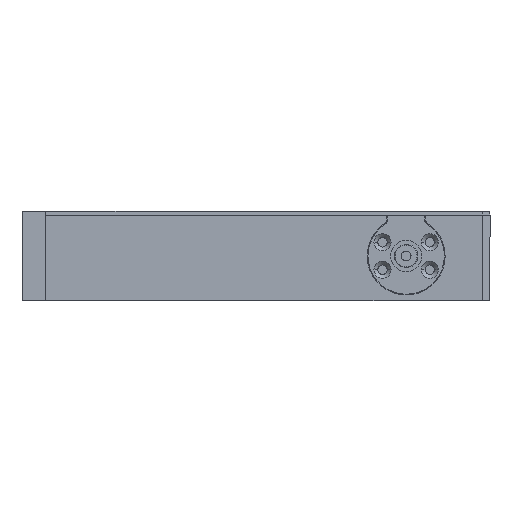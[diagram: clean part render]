
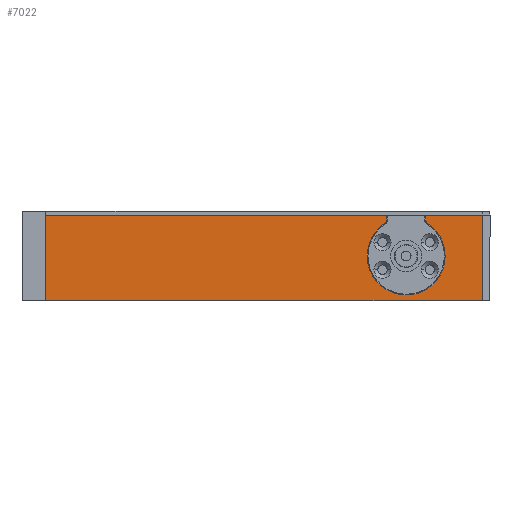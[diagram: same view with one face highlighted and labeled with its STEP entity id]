
A CAD part, front view. The second image highlights one B-rep face of the part: STEP entity #7022.
In plain terms, the highlighted planar face has unit normal (0, -1, 0).
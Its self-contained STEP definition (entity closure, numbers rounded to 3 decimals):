
#592 = EDGE_CURVE ( 'NONE', #158724, #89011, #77764, .T. ) ;
#776 = FACE_OUTER_BOUND ( 'NONE', #34808, .T. ) ;
#3015 = EDGE_CURVE ( 'NONE', #146406, #12506, #97725, .T. ) ;
#3884 = VECTOR ( 'NONE', #41280, 1000. ) ;
#4421 = LINE ( 'NONE', #44938, #34859 ) ;
#6482 = AXIS2_PLACEMENT_3D ( 'NONE', #114024, #167968, #46750 ) ;
#7022 = ADVANCED_FACE ( 'NONE', ( #776 ), #66064, .F. ) ;
#10365 = EDGE_CURVE ( 'NONE', #17461, #11647, #55764, .T. ) ;
#11350 = ORIENTED_EDGE ( 'NONE', *, *, #43931, .T. ) ;
#11647 = VERTEX_POINT ( 'NONE', #30375 ) ;
#12506 = VERTEX_POINT ( 'NONE', #59005 ) ;
#13274 = AXIS2_PLACEMENT_3D ( 'NONE', #105619, #36719, #172045 ) ;
#14422 = EDGE_CURVE ( 'NONE', #12506, #155410, #4421, .T. ) ;
#14834 = LINE ( 'NONE', #15734, #3884 ) ;
#15734 = CARTESIAN_POINT ( 'NONE',  ( 60., -110., -1.5 ) ) ;
#16097 = CARTESIAN_POINT ( 'NONE',  ( 43.5, -110., 20.5 ) ) ;
#17342 = ORIENTED_EDGE ( 'NONE', *, *, #592, .F. ) ;
#17461 = VERTEX_POINT ( 'NONE', #30362 ) ;
#21244 = CARTESIAN_POINT ( 'NONE',  ( 38.5, -110., 10. ) ) ;
#24385 = CARTESIAN_POINT ( 'NONE',  ( -54., -110., 20.5 ) ) ;
#27313 = CARTESIAN_POINT ( 'NONE',  ( 43.955, -110., 18.381 ) ) ;
#28847 = VECTOR ( 'NONE', #66795, 1000. ) ;
#30362 = CARTESIAN_POINT ( 'NONE',  ( 43.5, -110., 19.22 ) ) ;
#30375 = CARTESIAN_POINT ( 'NONE',  ( 43.5, -110., 20.5 ) ) ;
#30578 = CARTESIAN_POINT ( 'NONE',  ( -60., -110., 20.5 ) ) ;
#34808 = EDGE_LOOP ( 'NONE', ( #119040, #160929, #17342, #150369, #11350, #89950, #68805, #96111, #149144, #118049, #110901 ) ) ;
#34859 = VECTOR ( 'NONE', #152863, 1000. ) ;
#35694 = CARTESIAN_POINT ( 'NONE',  ( 58., -110., -1.5 ) ) ;
#36719 = DIRECTION ( 'NONE',  ( 0., -1., 0. ) ) ;
#37937 = CARTESIAN_POINT ( 'NONE',  ( 33.5, -110., 19.22 ) ) ;
#38871 = VECTOR ( 'NONE', #108376, 1000. ) ;
#41280 = DIRECTION ( 'NONE',  ( -1., 0., 0. ) ) ;
#42519 = DIRECTION ( 'NONE',  ( 0., 0., 1. ) ) ;
#42970 = CARTESIAN_POINT ( 'NONE',  ( 33.045, -110., 18.381 ) ) ;
#43931 = EDGE_CURVE ( 'NONE', #102168, #155410, #54359, .T. ) ;
#44910 = EDGE_CURVE ( 'NONE', #166094, #174392, #14834, .T. ) ;
#44938 = CARTESIAN_POINT ( 'NONE',  ( 33.5, -110., 20.5 ) ) ;
#46750 = DIRECTION ( 'NONE',  ( 0., 0., -1. ) ) ;
#51681 = EDGE_CURVE ( 'NONE', #166094, #95658, #80054, .T. ) ;
#54359 = CIRCLE ( 'NONE', #99687, 1. ) ;
#54516 = CARTESIAN_POINT ( 'NONE',  ( -54., -110., 21.5 ) ) ;
#54815 = CARTESIAN_POINT ( 'NONE',  ( -54., -110., -1.5 ) ) ;
#55764 = LINE ( 'NONE', #16097, #154599 ) ;
#56515 = CARTESIAN_POINT ( 'NONE',  ( -54., -110., 21.5 ) ) ;
#58356 = CIRCLE ( 'NONE', #13274, 1. ) ;
#59005 = CARTESIAN_POINT ( 'NONE',  ( 33.5, -110., 20.5 ) ) ;
#62832 = AXIS2_PLACEMENT_3D ( 'NONE', #54516, #122657, #108555 ) ;
#66064 = PLANE ( 'NONE',  #62832 ) ;
#66795 = DIRECTION ( 'NONE',  ( 0., 0., 1. ) ) ;
#68805 = ORIENTED_EDGE ( 'NONE', *, *, #3015, .F. ) ;
#77764 = CIRCLE ( 'NONE', #94318, 10. ) ;
#80054 = LINE ( 'NONE', #163214, #28847 ) ;
#83012 = DIRECTION ( 'NONE',  ( 0., -1., 0. ) ) ;
#84795 = CARTESIAN_POINT ( 'NONE',  ( 32.5, -110., 19.22 ) ) ;
#89011 = VERTEX_POINT ( 'NONE', #27313 ) ;
#89950 = ORIENTED_EDGE ( 'NONE', *, *, #14422, .F. ) ;
#93756 = VECTOR ( 'NONE', #110566, 1000. ) ;
#94318 = AXIS2_PLACEMENT_3D ( 'NONE', #21244, #103435, #129037 ) ;
#95658 = VERTEX_POINT ( 'NONE', #132365 ) ;
#96111 = ORIENTED_EDGE ( 'NONE', *, *, #173087, .T. ) ;
#97725 = LINE ( 'NONE', #135730, #38871 ) ;
#99687 = AXIS2_PLACEMENT_3D ( 'NONE', #84795, #83012, #109609 ) ;
#102168 = VERTEX_POINT ( 'NONE', #42970 ) ;
#103435 = DIRECTION ( 'NONE',  ( 0., -1., 0. ) ) ;
#105039 = EDGE_CURVE ( 'NONE', #17461, #89011, #58356, .T. ) ;
#105619 = CARTESIAN_POINT ( 'NONE',  ( 44.5, -110., 19.22 ) ) ;
#108376 = DIRECTION ( 'NONE',  ( 1., 0., 0. ) ) ;
#108555 = DIRECTION ( 'NONE',  ( 0., 0., 1. ) ) ;
#109609 = DIRECTION ( 'NONE',  ( 0., 0., 1. ) ) ;
#110566 = DIRECTION ( 'NONE',  ( 0., 0., -1. ) ) ;
#110901 = ORIENTED_EDGE ( 'NONE', *, *, #142364, .F. ) ;
#114024 = CARTESIAN_POINT ( 'NONE',  ( 38.5, -110., 10. ) ) ;
#118049 = ORIENTED_EDGE ( 'NONE', *, *, #51681, .T. ) ;
#119040 = ORIENTED_EDGE ( 'NONE', *, *, #10365, .F. ) ;
#122657 = DIRECTION ( 'NONE',  ( 0., 1., 0. ) ) ;
#129037 = DIRECTION ( 'NONE',  ( 0., 0., -1. ) ) ;
#132365 = CARTESIAN_POINT ( 'NONE',  ( 58., -110., 20.5 ) ) ;
#135730 = CARTESIAN_POINT ( 'NONE',  ( -60., -110., 20.5 ) ) ;
#142364 = EDGE_CURVE ( 'NONE', #11647, #95658, #164086, .T. ) ;
#146406 = VERTEX_POINT ( 'NONE', #24385 ) ;
#148623 = LINE ( 'NONE', #56515, #93756 ) ;
#149144 = ORIENTED_EDGE ( 'NONE', *, *, #44910, .F. ) ;
#149862 = CARTESIAN_POINT ( 'NONE',  ( 38.5, -110., 0. ) ) ;
#150369 = ORIENTED_EDGE ( 'NONE', *, *, #167402, .F. ) ;
#150808 = DIRECTION ( 'NONE',  ( 1., 0., 0. ) ) ;
#152863 = DIRECTION ( 'NONE',  ( 0., 0., -1. ) ) ;
#154599 = VECTOR ( 'NONE', #42519, 1000. ) ;
#155410 = VERTEX_POINT ( 'NONE', #37937 ) ;
#158724 = VERTEX_POINT ( 'NONE', #149862 ) ;
#160929 = ORIENTED_EDGE ( 'NONE', *, *, #105039, .T. ) ;
#163214 = CARTESIAN_POINT ( 'NONE',  ( 58., -110., 21.5 ) ) ;
#164086 = LINE ( 'NONE', #30578, #167337 ) ;
#164559 = CIRCLE ( 'NONE', #6482, 10. ) ;
#166094 = VERTEX_POINT ( 'NONE', #35694 ) ;
#167337 = VECTOR ( 'NONE', #150808, 1000. ) ;
#167402 = EDGE_CURVE ( 'NONE', #102168, #158724, #164559, .T. ) ;
#167968 = DIRECTION ( 'NONE',  ( 0., -1., 0. ) ) ;
#172045 = DIRECTION ( 'NONE',  ( 0., 0., 1. ) ) ;
#173087 = EDGE_CURVE ( 'NONE', #146406, #174392, #148623, .T. ) ;
#174392 = VERTEX_POINT ( 'NONE', #54815 ) ;
